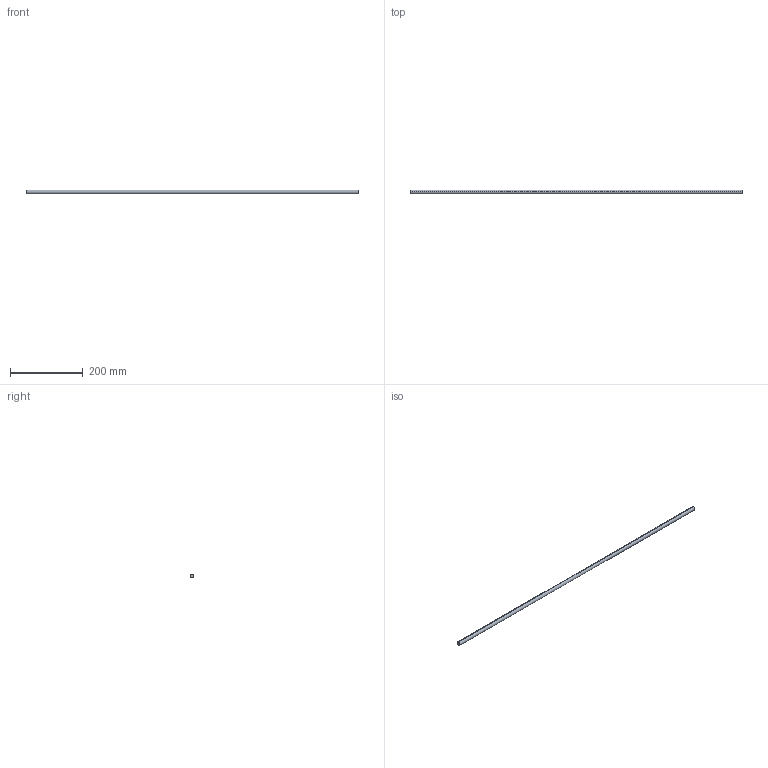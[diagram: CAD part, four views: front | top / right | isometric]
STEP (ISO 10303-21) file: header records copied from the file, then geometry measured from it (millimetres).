
FILE_DESCRIPTION (( 'STEP AP214' ), '1' );
FILE_NAME ('Querreling_Frontblende_Innenlade_KS-16_KAB-1000.step', '2010-09-22T15:05:31', ( 'grass' ), ( '' ), 'SwSTEP 2.0', 'SolidWorks 2010', '' );
FILE_SCHEMA (( 'AUTOMOTIVE_DESIGN' ));
Length unit declared in the file: millimetre
Products named in the file (1): Querreling_Frontblende_Innenlade_KS-16_KAB-1000
Bounding box: 915 x 11 x 11 mm (x, y, z)
Volume: 86955.4 mm3; surface area: 31810.2 mm2
Topology: 1 solids, 1 shells, 4 faces, 6 edges, 4 vertices
Faces by surface type: cylinder 2, plane 2
Entity records: 128 total; most frequent: DIRECTION 20, CARTESIAN_POINT 15, ORIENTED_EDGE 12, AXIS2_PLACEMENT_3D 9, EDGE_CURVE 6, EDGE_LOOP 4, FACE_OUTER_BOUND 4, CIRCLE 4
